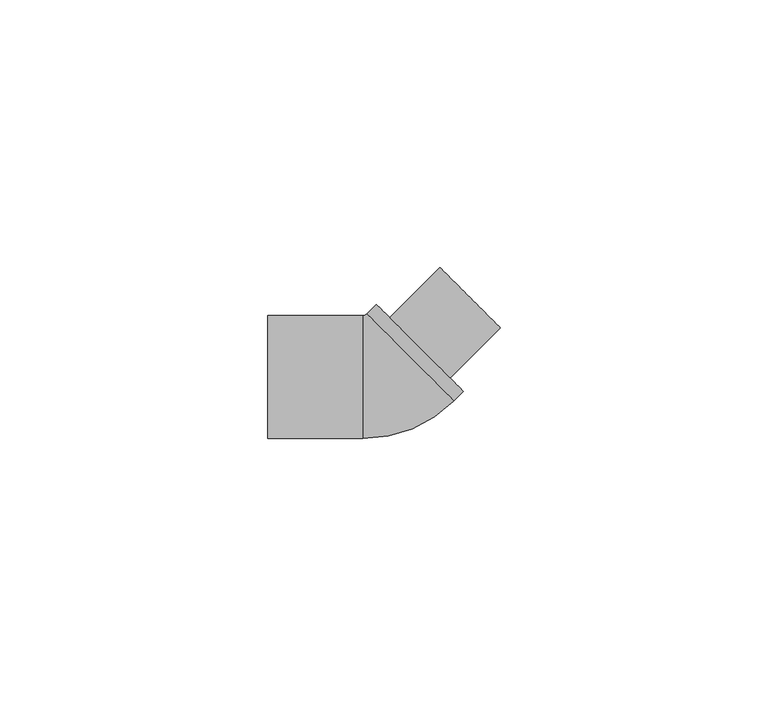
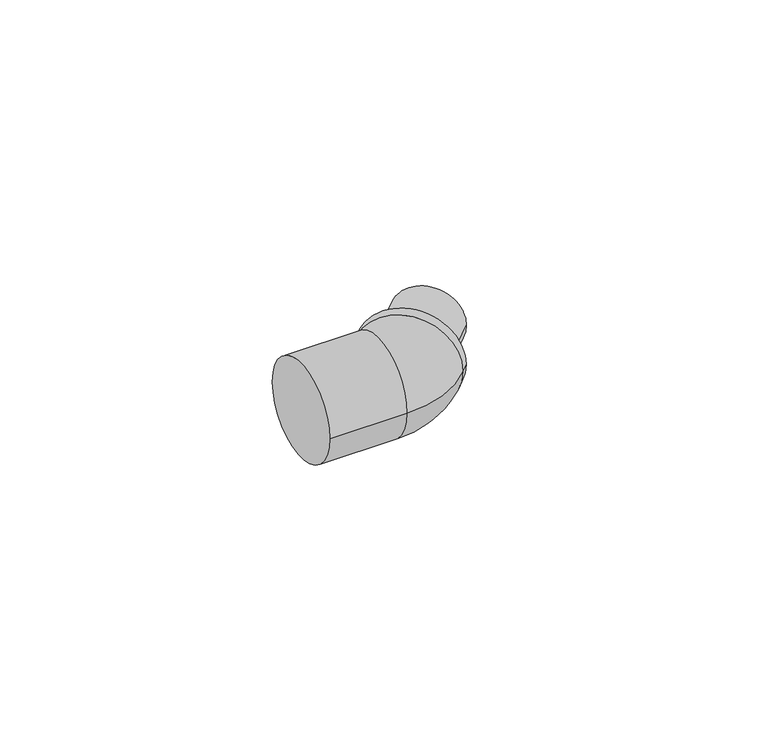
"""IFC4 building model written with IfcOpenShell, lengths in millimetres: pipe fitting geometry, KAN-therm PP kolano nyplowe 45 : KAN-therm PP kolano nyplowe 45."""

from ifc_helpers import new_model, si_unit, point, frame, origin, place, context, project, spatial, circle_curve, ellipse_curve, trimmed, source, transform, mapped, element, save
from ifc_brep_helpers import plane_surface, cylinder_surface, revolved_surface, advanced_brep


def pipe_fitting_eb173797(model_context):
    return source(origin(), model_context, "Body", "AdvancedBrep", [
        advanced_brep(
        [(28.0060967, 9.1923882, 0.0), (16.6923882, 20.5060967, 0.0), (22.3492424, 14.8492424, 0.0), (18.6015765, -0.212132, 0.0), (7.287868, 11.1015765, 0.0), (12.9447222, 5.4447222, 0.0)],
        [
            (0, 1, circle_curve(frame((22.3492424, 14.8492424, 0.0), z_axis=(0.7071067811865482, 0.7071067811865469, 0.0), x_axis=(-0.7071067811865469, 0.7071067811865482, 0.0)), 8.0)),
            (1, 2),
            (2, 0),
            (1, 0, circle_curve(frame((22.3492424, 14.8492424, 0.0), z_axis=(0.7071067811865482, 0.7071067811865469, 0.0), x_axis=(-0.7071067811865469, 0.7071067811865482, 0.0)), 8.0)),
            (3, 4, circle_curve(frame((12.9447222, 5.4447222, 0.0), z_axis=(0.7071067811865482, 0.7071067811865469, 0.0), x_axis=(-0.7071067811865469, 0.7071067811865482, 0.0)), 8.0)),
            (4, 1),
            (0, 3),
            (4, 3, circle_curve(frame((12.9447222, 5.4447222, 0.0), z_axis=(0.7071067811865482, 0.7071067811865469, 0.0), x_axis=(-0.7071067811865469, 0.7071067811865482, 0.0)), 8.0)),
            (5, 4),
            (3, 5),
        ],
        [
            plane_surface(frame((22.3492424, 14.8492424, 0.0), z_axis=(0.7071067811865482, 0.7071067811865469, 0.0), x_axis=(-0.7071067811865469, 0.7071067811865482, 0.0))),
            cylinder_surface(frame((7.5, 0.0, 0.0), z_axis=(-0.7071067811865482, -0.7071067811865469, 0.0), x_axis=(-0.7071067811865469, 0.7071067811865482, 0.0)), 8.0),
            plane_surface(frame((12.9447222, 5.4447222, 0.0), z_axis=(-0.7071067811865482, -0.7071067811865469, 0.0), x_axis=(-0.7071067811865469, 0.7071067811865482, 0.0))),
        ],
        [
            (0, [[1, 2, 3]]),
            (0, [[4, -3, -2]]),
            (1, [[5, 6, -1, 7]]),
            (1, [[8, -7, -4, -6]]),
            (2, [[9, -5, 10]]),
            (2, [[-10, -8, -9]]),
        ],
    ),
        advanced_brep(
        [(-15.5, -11.5, 0.0), (-15.5, 11.5, 0.0), (2.3223305, -11.5, 0.0), (2.3223305, 11.5, 0.0), (3.0294373, 11.7928932, 0.0), (19.2928932, -4.4705627, 0.0), (21.0764502, -2.6870058, 0.0), (4.8129942, 13.5764502, 0.0)],
        [
            (0, 1, circle_curve(frame((-15.5, 0.0, 0.0), z_axis=(-1.0, 0.0, 0.0), x_axis=(0.0, 1.0, 0.0)), 11.5)),
            (1, 0, circle_curve(frame((-15.5, 0.0, 0.0), z_axis=(-1.0, 0.0, 0.0), x_axis=(0.0, 1.0, 0.0)), 11.5)),
            (0, 2),
            (2, 3, circle_curve(frame((2.3223305, 0.0, 0.0), z_axis=(-1.0, 0.0, 0.0), x_axis=(0.0, 1.0, 0.0)), 11.5)),
            (3, 1),
            (3, 2, circle_curve(frame((2.3223305, 0.0, 0.0), z_axis=(-1.0, 0.0, 0.0), x_axis=(0.0, 1.0, 0.0)), 11.5)),
            (4, 3, circle_curve(frame((2.3223305, 12.5, 0.0), z_axis=(0.0, 0.0, -1.0), x_axis=(0.0, -1.0, 0.0)), 1.0)),
            (2, 5, circle_curve(frame((2.3223305, 12.5, 0.0), z_axis=(0.0, 0.0, 1.0), x_axis=(0.0, -1.0, 0.0)), 24.0)),
            (5, 4, circle_curve(frame((11.1611652, 3.6611652, 0.0), z_axis=(-0.7071067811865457, -0.7071067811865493, 0.0), x_axis=(-0.7071067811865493, 0.7071067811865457, 0.0)), 11.5)),
            (4, 5, circle_curve(frame((11.1611652, 3.6611652, 0.0), z_axis=(-0.7071067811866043, -0.7071067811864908, 0.0), x_axis=(-0.7071067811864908, 0.7071067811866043, 0.0)), 11.5)),
            (6, 7, circle_curve(frame((12.9447222, 5.4447222, 0.0), z_axis=(0.707106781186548, 0.707106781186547, 0.0), x_axis=(-0.707106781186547, 0.707106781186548, 0.0)), 11.5)),
            (7, 6, circle_curve(frame((12.9447222, 5.4447222, 0.0), z_axis=(0.707106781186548, 0.707106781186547, 0.0), x_axis=(-0.707106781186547, 0.707106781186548, 0.0)), 11.5)),
            (5, 6),
            (7, 4),
        ],
        [
            plane_surface(frame((-15.5, 0.0, 0.0), z_axis=(-1.0, 0.0, 0.0), x_axis=(0.0, 0.0, 1.0))),
            cylinder_surface(frame((-15.5, 0.0, 0.0), z_axis=(-1.0, 0.0, 0.0), x_axis=(0.0, 1.0, 0.0)), 11.5),
            revolved_surface(trimmed(ellipse_curve(frame((2.3223305, 0.0, 0.0), z_axis=(-1.0, 0.0, 0.0), x_axis=(0.0, 1.0, 0.0)), 11.5, 11.5), [point((2.3223305, -11.5, 0.0))], [point((2.3223305, 11.5, 0.0))], True, "CARTESIAN"), (2.3223305, 12.5, 0.0), (0.0, 0.0, 1.0)),
            revolved_surface(trimmed(ellipse_curve(frame((2.3223305, 0.0, 0.0), z_axis=(-1.0, 0.0, 0.0), x_axis=(0.0, 1.0, 0.0)), 11.5, 11.5), [point((2.3223305, 11.5, 0.0))], [point((2.3223305, -11.5, 0.0))], True, "CARTESIAN"), (2.3223305, 12.5, 0.0), (0.0, 0.0, 1.0)),
            plane_surface(frame((12.9447222, 5.4447222, 0.0), z_axis=(0.707106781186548, 0.707106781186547, 0.0), x_axis=(0.0, 0.0, 1.0))),
            cylinder_surface(frame((11.1611652, 3.6611652, 0.0), z_axis=(-0.707106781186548, -0.707106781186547, 0.0), x_axis=(-0.707106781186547, 0.707106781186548, 0.0)), 11.5),
        ],
        [
            (0, [[1, 2]]),
            (1, [[-1, 3, 4, 5]]),
            (1, [[-2, -5, 6, -3]]),
            (2, [[7, -4, 8, 9]]),
            (3, [[-8, -6, -7, 10]]),
            (4, [[11, 12]]),
            (5, [[-9, 13, -12, 14]]),
            (5, [[-10, -14, -11, -13]]),
        ],
    ),
    ])


if __name__ == "__main__":
    model = new_model("IFC4")
    model_context = context("Model", 3, world=origin())
    ifc_project = project(units=[si_unit("LENGTHUNIT", "METRE", prefix="MILLI")], contexts=[model_context])
    site = spatial("IfcSite", under=ifc_project)
    building = spatial("IfcBuilding", under=site)
    placement = place(None, origin())
    pipe_fitting_shape = pipe_fitting_eb173797(model_context)
    element("IfcPipeFitting", 1, ObjectType="KAN-therm PP kolano nyplowe 45 : KAN-therm PP kolano nyplowe 45", at=placement, inside=building, context=model_context, shape_type="MappedRepresentation", body=[
        mapped(pipe_fitting_shape, transform((0.0, 0.0, 0.0), x_axis=(1.0, 0.0, 0.0), y_axis=(0.0, 1.0, 0.0), z_axis=(0.0, 0.0, 1.0))),
    ])
    save(model, "model.ifc")
